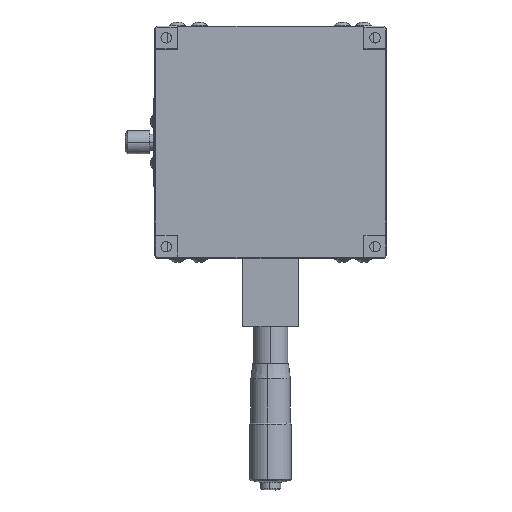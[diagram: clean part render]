
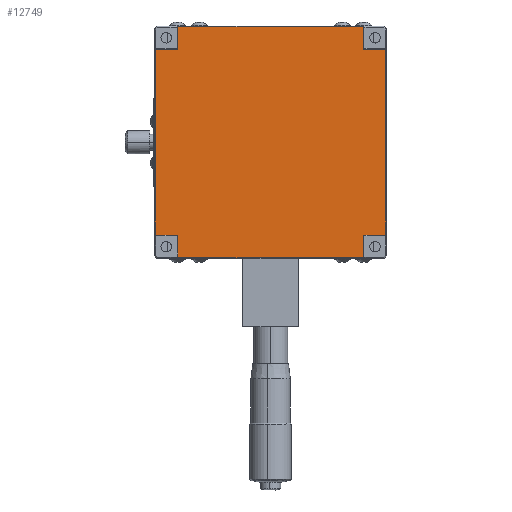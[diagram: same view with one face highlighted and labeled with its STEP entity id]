
A CAD part, front view. The second image highlights one B-rep face of the part: STEP entity #12749.
In plain terms, the highlighted planar face has unit normal (0, -1, 0).
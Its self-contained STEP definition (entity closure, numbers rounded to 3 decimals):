
#934 = ORIENTED_EDGE ( 'NONE', *, *, #8731, .T. ) ;
#935 = ORIENTED_EDGE ( 'NONE', *, *, #8729, .T. ) ;
#936 = ORIENTED_EDGE ( 'NONE', *, *, #8751, .T. ) ;
#937 = ORIENTED_EDGE ( 'NONE', *, *, #8748, .T. ) ;
#938 = ORIENTED_EDGE ( 'NONE', *, *, #8746, .T. ) ;
#939 = ORIENTED_EDGE ( 'NONE', *, *, #8744, .T. ) ;
#940 = ORIENTED_EDGE ( 'NONE', *, *, #8742, .T. ) ;
#941 = ORIENTED_EDGE ( 'NONE', *, *, #8740, .T. ) ;
#942 = ORIENTED_EDGE ( 'NONE', *, *, #8738, .T. ) ;
#943 = ORIENTED_EDGE ( 'NONE', *, *, #8737, .T. ) ;
#944 = ORIENTED_EDGE ( 'NONE', *, *, #8734, .T. ) ;
#945 = ORIENTED_EDGE ( 'NONE', *, *, #8732, .T. ) ;
#1504 = EDGE_LOOP ( 'NONE', ( #934, #935, #936, #937, #938, #939, #940, #941, #942, #943, #944, #945 ) ) ;
#3118 = CARTESIAN_POINT ( 'NONE',  ( 7.542, -0.679, -40. ) ) ;
#3194 = CARTESIAN_POINT ( 'NONE',  ( 17.242, -0.679, 40. ) ) ;
#3214 = CARTESIAN_POINT ( 'NONE',  ( 7.542, -0.679, 40. ) ) ;
#3220 = CARTESIAN_POINT ( 'NONE',  ( -72.458, -0.679, 40. ) ) ;
#3251 = CARTESIAN_POINT ( 'NONE',  ( -72.458, -0.679, -40. ) ) ;
#3253 = CARTESIAN_POINT ( 'NONE',  ( 7.542, -0.679, 49.7 ) ) ;
#3364 = CARTESIAN_POINT ( 'NONE',  ( 17.242, -0.679, -40. ) ) ;
#3436 = CARTESIAN_POINT ( 'NONE',  ( -82.158, -0.679, 40. ) ) ;
#3474 = CARTESIAN_POINT ( 'NONE',  ( -82.158, -0.679, -40. ) ) ;
#4396 = AXIS2_PLACEMENT_3D ( 'NONE', #13117, #13137, #13138 ) ;
#7870 = VERTEX_POINT ( 'NONE', #17228 ) ;
#7909 = VERTEX_POINT ( 'NONE', #17267 ) ;
#8729 = EDGE_CURVE ( 'NONE', #7909, #7870, #11698, .T. ) ;
#8731 = EDGE_CURVE ( 'NONE', #14714, #7909, #11703, .T. ) ;
#8732 = EDGE_CURVE ( 'NONE', #14937, #14714, #11715, .T. ) ;
#8734 = EDGE_CURVE ( 'NONE', #14899, #14937, #11708, .T. ) ;
#8737 = EDGE_CURVE ( 'NONE', #14683, #14899, #11719, .T. ) ;
#8738 = EDGE_CURVE ( 'NONE', #14525, #14683, #11733, .T. ) ;
#8740 = EDGE_CURVE ( 'NONE', #14716, #14525, #11725, .T. ) ;
#8742 = EDGE_CURVE ( 'NONE', #14677, #14716, #11729, .T. ) ;
#8744 = EDGE_CURVE ( 'NONE', #14657, #14677, #11751, .T. ) ;
#8746 = EDGE_CURVE ( 'NONE', #14827, #14657, #11737, .T. ) ;
#8748 = EDGE_CURVE ( 'NONE', #14578, #14827, #11743, .T. ) ;
#8751 = EDGE_CURVE ( 'NONE', #7870, #14578, #11761, .T. ) ;
#11698 = LINE ( 'NONE', #11699, #14187 ) ;
#11699 = CARTESIAN_POINT ( 'NONE',  ( -72.458, -0.679, -49.7 ) ) ;
#11703 = LINE ( 'NONE', #11713, #14185 ) ;
#11708 = LINE ( 'NONE', #11722, #14184 ) ;
#11709 = DIRECTION ( 'NONE',  ( 1., 0., 0. ) ) ;
#11713 = CARTESIAN_POINT ( 'NONE',  ( -72.458, -0.679, 58.693 ) ) ;
#11714 = DIRECTION ( 'NONE',  ( 0., 0., -1. ) ) ;
#11715 = LINE ( 'NONE', #11716, #14183 ) ;
#11716 = CARTESIAN_POINT ( 'NONE',  ( -72.458, -0.679, -40. ) ) ;
#11717 = DIRECTION ( 'NONE',  ( 1., 0., 0. ) ) ;
#11719 = LINE ( 'NONE', #11731, #14179 ) ;
#11722 = CARTESIAN_POINT ( 'NONE',  ( -82.158, -0.679, 58.693 ) ) ;
#11723 = DIRECTION ( 'NONE',  ( 0., 0., -1. ) ) ;
#11725 = LINE ( 'NONE', #11740, #14178 ) ;
#11729 = LINE ( 'NONE', #11746, #14175 ) ;
#11731 = CARTESIAN_POINT ( 'NONE',  ( -72.458, -0.679, 40. ) ) ;
#11732 = DIRECTION ( 'NONE',  ( -1., 0., 0. ) ) ;
#11733 = LINE ( 'NONE', #11734, #14177 ) ;
#11734 = CARTESIAN_POINT ( 'NONE',  ( -72.458, -0.679, 58.693 ) ) ;
#11735 = DIRECTION ( 'NONE',  ( 0., 0., -1. ) ) ;
#11737 = LINE ( 'NONE', #11758, #14173 ) ;
#11740 = CARTESIAN_POINT ( 'NONE',  ( -72.458, -0.679, 49.7 ) ) ;
#11741 = DIRECTION ( 'NONE',  ( -1., 0., 0. ) ) ;
#11743 = LINE ( 'NONE', #11764, #14169 ) ;
#11746 = CARTESIAN_POINT ( 'NONE',  ( 7.542, -0.679, 58.693 ) ) ;
#11747 = DIRECTION ( 'NONE',  ( 0., 0., 1. ) ) ;
#11751 = LINE ( 'NONE', #11752, #14171 ) ;
#11752 = CARTESIAN_POINT ( 'NONE',  ( -72.458, -0.679, 40. ) ) ;
#11753 = DIRECTION ( 'NONE',  ( -1., 0., 0. ) ) ;
#11758 = CARTESIAN_POINT ( 'NONE',  ( 17.242, -0.679, 58.693 ) ) ;
#11759 = DIRECTION ( 'NONE',  ( 0., 0., 1. ) ) ;
#11761 = LINE ( 'NONE', #11773, #14165 ) ;
#11764 = CARTESIAN_POINT ( 'NONE',  ( -72.458, -0.679, -40. ) ) ;
#11765 = DIRECTION ( 'NONE',  ( 1., 0., 0. ) ) ;
#11773 = CARTESIAN_POINT ( 'NONE',  ( 7.542, -0.679, 58.693 ) ) ;
#11774 = DIRECTION ( 'NONE',  ( 0., 0., 1. ) ) ;
#12749 = ADVANCED_FACE ( 'NONE', ( #13118 ), #13134, .T. ) ;
#13117 = CARTESIAN_POINT ( 'NONE',  ( -72.458, -0.679, 58.693 ) ) ;
#13118 = FACE_OUTER_BOUND ( 'NONE', #1504, .T. ) ;
#13134 = PLANE ( 'NONE',  #4396 ) ;
#13137 = DIRECTION ( 'NONE',  ( 0., -1., 0. ) ) ;
#13138 = DIRECTION ( 'NONE',  ( 0., 0., -1. ) ) ;
#14008 = CARTESIAN_POINT ( 'NONE',  ( -72.458, -0.679, 49.7 ) ) ;
#14165 = VECTOR ( 'NONE', #11774, 1000. ) ;
#14169 = VECTOR ( 'NONE', #11765, 1000. ) ;
#14171 = VECTOR ( 'NONE', #11753, 1000. ) ;
#14173 = VECTOR ( 'NONE', #11759, 1000. ) ;
#14175 = VECTOR ( 'NONE', #11747, 1000. ) ;
#14177 = VECTOR ( 'NONE', #11735, 1000. ) ;
#14178 = VECTOR ( 'NONE', #11741, 1000. ) ;
#14179 = VECTOR ( 'NONE', #11732, 1000. ) ;
#14183 = VECTOR ( 'NONE', #11717, 1000. ) ;
#14184 = VECTOR ( 'NONE', #11723, 1000. ) ;
#14185 = VECTOR ( 'NONE', #11714, 1000. ) ;
#14187 = VECTOR ( 'NONE', #11709, 1000. ) ;
#14525 = VERTEX_POINT ( 'NONE', #14008 ) ;
#14578 = VERTEX_POINT ( 'NONE', #3118 ) ;
#14657 = VERTEX_POINT ( 'NONE', #3194 ) ;
#14677 = VERTEX_POINT ( 'NONE', #3214 ) ;
#14683 = VERTEX_POINT ( 'NONE', #3220 ) ;
#14714 = VERTEX_POINT ( 'NONE', #3251 ) ;
#14716 = VERTEX_POINT ( 'NONE', #3253 ) ;
#14827 = VERTEX_POINT ( 'NONE', #3364 ) ;
#14899 = VERTEX_POINT ( 'NONE', #3436 ) ;
#14937 = VERTEX_POINT ( 'NONE', #3474 ) ;
#17228 = CARTESIAN_POINT ( 'NONE',  ( 7.542, -0.679, -49.7 ) ) ;
#17267 = CARTESIAN_POINT ( 'NONE',  ( -72.458, -0.679, -49.7 ) ) ;
